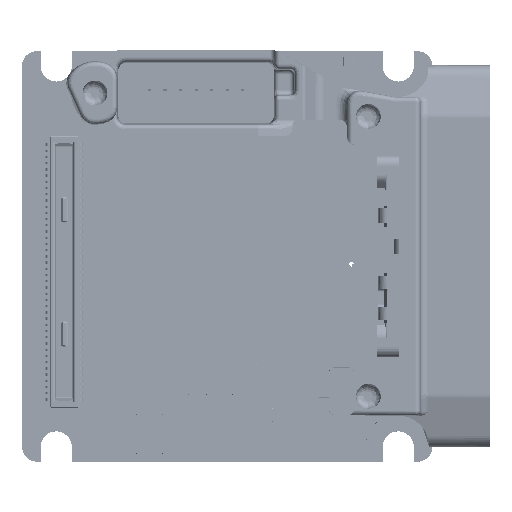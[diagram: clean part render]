
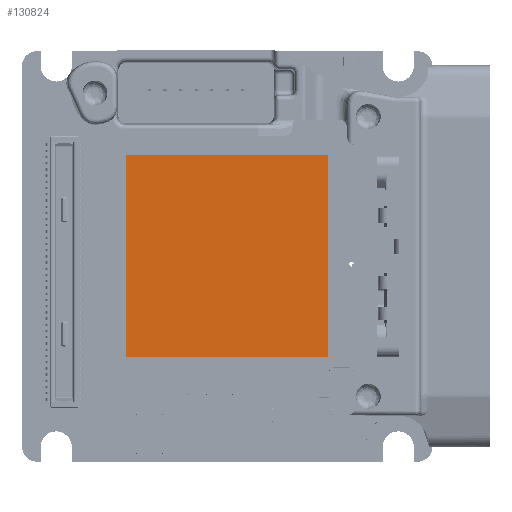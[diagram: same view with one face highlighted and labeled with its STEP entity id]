
A CAD part, top view. The second image highlights one B-rep face of the part: STEP entity #130824.
In plain terms, the highlighted planar face has unit normal (0, 0, 1).
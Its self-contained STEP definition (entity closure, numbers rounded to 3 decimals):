
#6622 = ORIENTED_EDGE ( 'NONE', *, *, #105156, .F. ) ;
#44402 = CARTESIAN_POINT ( 'NONE',  ( -6.5, -6.5, 6.162 ) ) ;
#53492 = CARTESIAN_POINT ( 'NONE',  ( 6.5, -6.5, 6.162 ) ) ;
#84242 = VECTOR ( 'NONE', #594037, 1000. ) ;
#102405 = VECTOR ( 'NONE', #141551, 1000. ) ;
#105156 = EDGE_CURVE ( 'NONE', #482859, #675958, #246525, .T. ) ;
#107804 = DIRECTION ( 'NONE',  ( 0., 1., 0. ) ) ;
#109863 = EDGE_CURVE ( 'NONE', #675958, #205536, #660177, .T. ) ;
#130824 = ADVANCED_FACE ( 'NONE', ( #422265 ), #579892, .T. ) ;
#134747 = EDGE_LOOP ( 'NONE', ( #279724, #398409, #6622, #344511 ) ) ;
#141551 = DIRECTION ( 'NONE',  ( 1., 0., 0. ) ) ;
#205536 = VERTEX_POINT ( 'NONE', #580408 ) ;
#246525 = LINE ( 'NONE', #572052, #102405 ) ;
#250839 = DIRECTION ( 'NONE',  ( 1., 0., 0. ) ) ;
#257701 = DIRECTION ( 'NONE',  ( 0., 0., 1. ) ) ;
#265784 = VECTOR ( 'NONE', #107804, 1000. ) ;
#279724 = ORIENTED_EDGE ( 'NONE', *, *, #562909, .F. ) ;
#294353 = AXIS2_PLACEMENT_3D ( 'NONE', #44402, #257701, #250839 ) ;
#344511 = ORIENTED_EDGE ( 'NONE', *, *, #575759, .F. ) ;
#351701 = CARTESIAN_POINT ( 'NONE',  ( 6.5, 6.5, 6.162 ) ) ;
#371856 = LINE ( 'NONE', #53492, #389102 ) ;
#380225 = CARTESIAN_POINT ( 'NONE',  ( 6.5, 6.5, 6.162 ) ) ;
#389102 = VECTOR ( 'NONE', #434910, 1000. ) ;
#398409 = ORIENTED_EDGE ( 'NONE', *, *, #109863, .F. ) ;
#403801 = VERTEX_POINT ( 'NONE', #565994 ) ;
#422265 = FACE_OUTER_BOUND ( 'NONE', #134747, .T. ) ;
#434910 = DIRECTION ( 'NONE',  ( -1., 0., 0. ) ) ;
#482859 = VERTEX_POINT ( 'NONE', #544771 ) ;
#544771 = CARTESIAN_POINT ( 'NONE',  ( -6.5, 6.5, 6.162 ) ) ;
#562909 = EDGE_CURVE ( 'NONE', #205536, #403801, #371856, .T. ) ;
#565994 = CARTESIAN_POINT ( 'NONE',  ( -6.5, -6.5, 6.162 ) ) ;
#572052 = CARTESIAN_POINT ( 'NONE',  ( -6.5, 6.5, 6.162 ) ) ;
#575759 = EDGE_CURVE ( 'NONE', #403801, #482859, #587412, .T. ) ;
#579892 = PLANE ( 'NONE',  #294353 ) ;
#580408 = CARTESIAN_POINT ( 'NONE',  ( 6.5, -6.5, 6.162 ) ) ;
#587412 = LINE ( 'NONE', #590939, #265784 ) ;
#590939 = CARTESIAN_POINT ( 'NONE',  ( -6.5, -6.5, 6.162 ) ) ;
#594037 = DIRECTION ( 'NONE',  ( 0., -1., 0. ) ) ;
#660177 = LINE ( 'NONE', #380225, #84242 ) ;
#675958 = VERTEX_POINT ( 'NONE', #351701 ) ;
